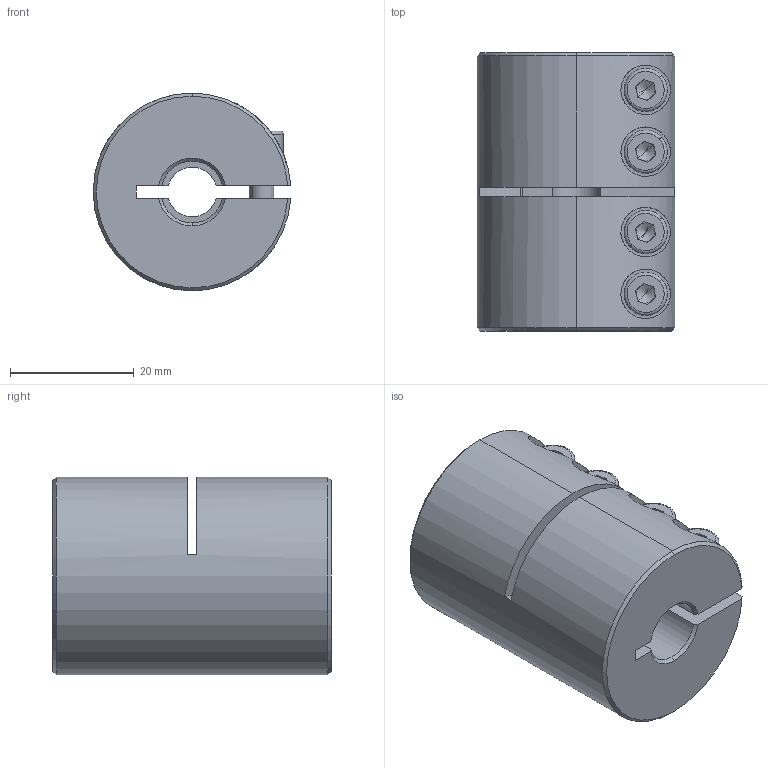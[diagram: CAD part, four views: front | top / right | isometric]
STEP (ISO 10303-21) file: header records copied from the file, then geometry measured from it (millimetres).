
FILE_DESCRIPTION (( 'STEP AP214' ), '1' );
FILE_NAME ('LL-B-D32L45-8-10½¨Ä£.STEP', '2022-07-21T07:01:00', ( '' ), ( '' ), 'SwSTEP 2.0', 'SolidWorks 2022', '' );
FILE_SCHEMA (( 'AUTOMOTIVE_DESIGN' ));
Length unit declared in the file: millimetre
Products named in the file (1): LL-B-D32L45-8-10膘耀
Bounding box: 31.97 x 45 x 32 mm (x, y, z)
Volume: 30655.9 mm3; surface area: 10769.9 mm2
Topology: 1 solids, 1 shells, 193 faces, 492 edges, 309 vertices
Faces by surface type: plane 88, cylinder 77, cone 20, torus 8
Entity records: 6357 total; most frequent: CARTESIAN_POINT 1583, DIRECTION 1037, ORIENTED_EDGE 968, EDGE_CURVE 484, AXIS2_PLACEMENT_3D 403, VERTEX_POINT 309, VECTOR 231, LINE 231
